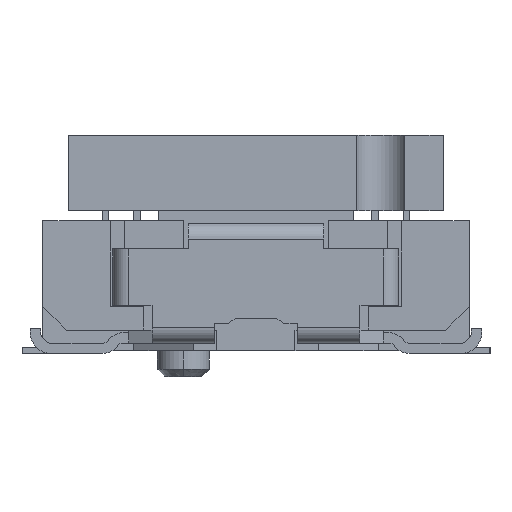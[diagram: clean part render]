
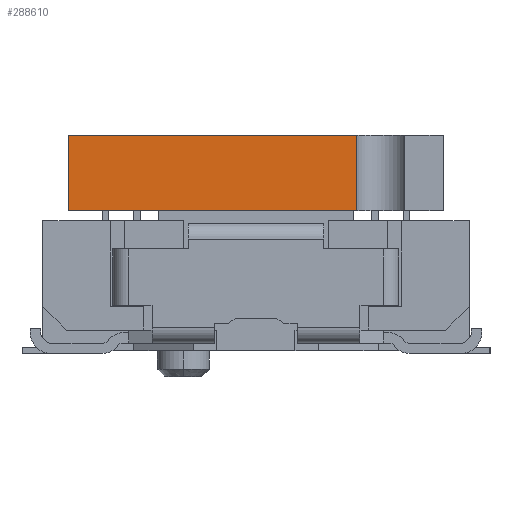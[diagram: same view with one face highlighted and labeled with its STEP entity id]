
A CAD part, left-side view. The second image highlights one B-rep face of the part: STEP entity #288610.
In plain terms, the highlighted planar face has unit normal (-1, 0, 0).
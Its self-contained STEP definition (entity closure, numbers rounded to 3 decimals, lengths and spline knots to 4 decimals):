
#288220=CARTESIAN_POINT('',(-7.6914,4.7419,2.55));
#288230=DIRECTION('',(-1.,0.,0.));
#288240=DIRECTION('',(0.,0.,1.));
#288250=AXIS2_PLACEMENT_3D('',#288220,#288230,#288240);
#288260=PLANE('',#288250);
#288270=CARTESIAN_POINT('',(-7.6914,0.,2.55));
#288280=DIRECTION('',(0.,-1.,0.));
#288290=VECTOR('',#288280,1.);
#288300=LINE('',#288270,#288290);
#288310=CARTESIAN_POINT('',(-7.6914,4.0219,2.55));
#288320=VERTEX_POINT('',#288310);
#288330=CARTESIAN_POINT('',(-7.6914,-1.5198,2.55));
#288340=VERTEX_POINT('',#288330);
#288350=EDGE_CURVE('',#288320,#288340,#288300,.T.);
#288360=ORIENTED_EDGE('',*,*,#288350,.T.);
#288370=CARTESIAN_POINT('',(-7.6914,4.0219,0.));
#288380=DIRECTION('',(0.,0.,-1.));
#288390=VECTOR('',#288380,1.);
#288400=LINE('',#288370,#288390);
#288410=CARTESIAN_POINT('',(-7.6914,4.0219,4.));
#288420=VERTEX_POINT('',#288410);
#288430=EDGE_CURVE('',#288420,#288320,#288400,.T.);
#288440=ORIENTED_EDGE('',*,*,#288430,.T.);
#288450=CARTESIAN_POINT('',(-7.6914,0.,4.));
#288460=DIRECTION('',(0.,1.,0.));
#288470=VECTOR('',#288460,1.);
#288480=LINE('',#288450,#288470);
#288490=CARTESIAN_POINT('',(-7.6914,-1.5198,4.));
#288500=VERTEX_POINT('',#288490);
#288510=EDGE_CURVE('',#288500,#288420,#288480,.T.);
#288520=ORIENTED_EDGE('',*,*,#288510,.T.);
#288530=CARTESIAN_POINT('',(-7.6914,-1.5198,-0.4));
#288540=DIRECTION('',(0.,0.,1.));
#288550=VECTOR('',#288540,1.);
#288560=LINE('',#288530,#288550);
#288570=EDGE_CURVE('',#288340,#288500,#288560,.T.);
#288580=ORIENTED_EDGE('',*,*,#288570,.T.);
#288590=EDGE_LOOP('',(#288580,#288520,#288440,#288360));
#288600=FACE_OUTER_BOUND('',#288590,.T.);
#288610=ADVANCED_FACE('',(#288600),#288260,.T.);
